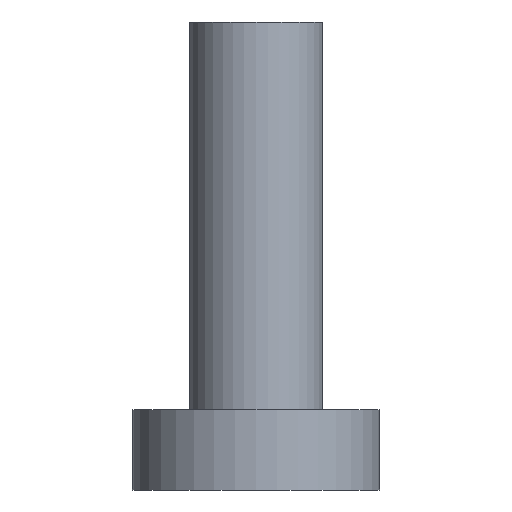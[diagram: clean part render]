
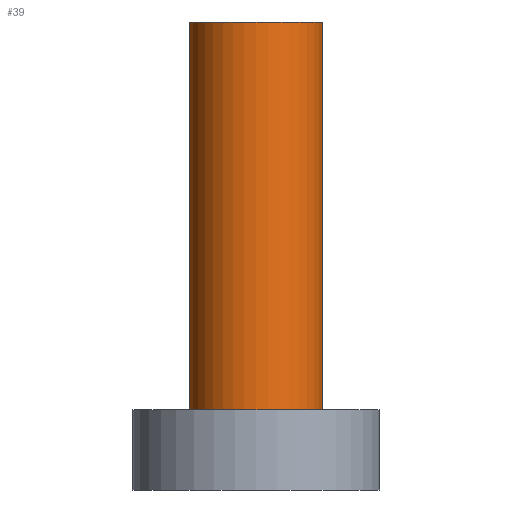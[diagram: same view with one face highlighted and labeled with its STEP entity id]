
A CAD part, left-side view. The second image highlights one B-rep face of the part: STEP entity #39.
In plain terms, the highlighted cylindrical face has radius 1 mm (diameter 2 mm), a full revolution.
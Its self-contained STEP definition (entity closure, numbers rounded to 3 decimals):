
#39 = ADVANCED_FACE('',(#40),#53,.T.);
#40 = FACE_BOUND('',#41,.F.);
#41 = EDGE_LOOP('',(#42,#80,#103,#130));
#42 = ORIENTED_EDGE('',*,*,#43,.T.);
#43 = EDGE_CURVE('',#44,#44,#46,.T.);
#44 = VERTEX_POINT('',#45);
#45 = CARTESIAN_POINT('',(-22.5,43.5,3.2));
#46 = SURFACE_CURVE('',#47,(#52,#64),.PCURVE_S1.);
#47 = CIRCLE('',#48,1.);
#48 = AXIS2_PLACEMENT_3D('',#49,#50,#51);
#49 = CARTESIAN_POINT('',(-23.5,43.5,3.2));
#50 = DIRECTION('',(0.,0.,-1.));
#51 = DIRECTION('',(1.,0.,0.));
#52 = PCURVE('',#53,#58);
#53 = CYLINDRICAL_SURFACE('',#54,1.);
#54 = AXIS2_PLACEMENT_3D('',#55,#56,#57);
#55 = CARTESIAN_POINT('',(-23.5,43.5,3.));
#56 = DIRECTION('',(-0.,-0.,-1.));
#57 = DIRECTION('',(1.,0.,0.));
#58 = DEFINITIONAL_REPRESENTATION('',(#59),#63);
#59 = LINE('',#60,#61);
#60 = CARTESIAN_POINT('',(-6.283,-0.2));
#61 = VECTOR('',#62,1.);
#62 = DIRECTION('',(1.,-0.));
#63 = ( GEOMETRIC_REPRESENTATION_CONTEXT(2) 
PARAMETRIC_REPRESENTATION_CONTEXT() REPRESENTATION_CONTEXT('2D SPACE',''
  ) );
#64 = PCURVE('',#65,#70);
#65 = PLANE('',#66);
#66 = AXIS2_PLACEMENT_3D('',#67,#68,#69);
#67 = CARTESIAN_POINT('',(-23.5,43.5,3.2));
#68 = DIRECTION('',(0.,0.,1.));
#69 = DIRECTION('',(1.,0.,-0.));
#70 = DEFINITIONAL_REPRESENTATION('',(#71),#79);
#71 = ( BOUNDED_CURVE() B_SPLINE_CURVE(2,(#72,#73,#74,#75,#76,#77,#78),
.UNSPECIFIED.,.T.,.F.) B_SPLINE_CURVE_WITH_KNOTS((1,2,2,2,2,1),(
    -2.094,0.,2.094,4.189,6.283,
8.378),.UNSPECIFIED.) CURVE() GEOMETRIC_REPRESENTATION_ITEM() 
RATIONAL_B_SPLINE_CURVE((1.,0.5,1.,0.5,1.,0.5,1.)) REPRESENTATION_ITEM(
  '') );
#72 = CARTESIAN_POINT('',(1.,0.));
#73 = CARTESIAN_POINT('',(1.,-1.732));
#74 = CARTESIAN_POINT('',(-0.5,-0.866));
#75 = CARTESIAN_POINT('',(-2.,0.));
#76 = CARTESIAN_POINT('',(-0.5,0.866));
#77 = CARTESIAN_POINT('',(1.,1.732));
#78 = CARTESIAN_POINT('',(1.,0.));
#79 = ( GEOMETRIC_REPRESENTATION_CONTEXT(2) 
PARAMETRIC_REPRESENTATION_CONTEXT() REPRESENTATION_CONTEXT('2D SPACE',''
  ) );
#80 = ORIENTED_EDGE('',*,*,#81,.T.);
#81 = EDGE_CURVE('',#44,#82,#84,.T.);
#82 = VERTEX_POINT('',#83);
#83 = CARTESIAN_POINT('',(-22.5,43.5,9.));
#84 = SEAM_CURVE('',#85,(#89,#96),.PCURVE_S1.);
#85 = LINE('',#86,#87);
#86 = CARTESIAN_POINT('',(-22.5,43.5,3.));
#87 = VECTOR('',#88,1.);
#88 = DIRECTION('',(0.,0.,1.));
#89 = PCURVE('',#53,#90);
#90 = DEFINITIONAL_REPRESENTATION('',(#91),#95);
#91 = LINE('',#92,#93);
#92 = CARTESIAN_POINT('',(-6.283,0.));
#93 = VECTOR('',#94,1.);
#94 = DIRECTION('',(-0.,-1.));
#95 = ( GEOMETRIC_REPRESENTATION_CONTEXT(2) 
PARAMETRIC_REPRESENTATION_CONTEXT() REPRESENTATION_CONTEXT('2D SPACE',''
  ) );
#96 = PCURVE('',#53,#97);
#97 = DEFINITIONAL_REPRESENTATION('',(#98),#102);
#98 = LINE('',#99,#100);
#99 = CARTESIAN_POINT('',(-0.,0.));
#100 = VECTOR('',#101,1.);
#101 = DIRECTION('',(-0.,-1.));
#102 = ( GEOMETRIC_REPRESENTATION_CONTEXT(2) 
PARAMETRIC_REPRESENTATION_CONTEXT() REPRESENTATION_CONTEXT('2D SPACE',''
  ) );
#103 = ORIENTED_EDGE('',*,*,#104,.T.);
#104 = EDGE_CURVE('',#82,#82,#105,.T.);
#105 = SURFACE_CURVE('',#106,(#111,#118),.PCURVE_S1.);
#106 = CIRCLE('',#107,1.);
#107 = AXIS2_PLACEMENT_3D('',#108,#109,#110);
#108 = CARTESIAN_POINT('',(-23.5,43.5,9.));
#109 = DIRECTION('',(0.,0.,1.));
#110 = DIRECTION('',(1.,0.,0.));
#111 = PCURVE('',#53,#112);
#112 = DEFINITIONAL_REPRESENTATION('',(#113),#117);
#113 = LINE('',#114,#115);
#114 = CARTESIAN_POINT('',(-0.,-6.));
#115 = VECTOR('',#116,1.);
#116 = DIRECTION('',(-1.,0.));
#117 = ( GEOMETRIC_REPRESENTATION_CONTEXT(2) 
PARAMETRIC_REPRESENTATION_CONTEXT() REPRESENTATION_CONTEXT('2D SPACE',''
  ) );
#118 = PCURVE('',#119,#124);
#119 = PLANE('',#120);
#120 = AXIS2_PLACEMENT_3D('',#121,#122,#123);
#121 = CARTESIAN_POINT('',(-23.5,43.5,9.));
#122 = DIRECTION('',(0.,0.,1.));
#123 = DIRECTION('',(1.,0.,-0.));
#124 = DEFINITIONAL_REPRESENTATION('',(#125),#129);
#125 = CIRCLE('',#126,1.);
#126 = AXIS2_PLACEMENT_2D('',#127,#128);
#127 = CARTESIAN_POINT('',(0.,0.));
#128 = DIRECTION('',(1.,0.));
#129 = ( GEOMETRIC_REPRESENTATION_CONTEXT(2) 
PARAMETRIC_REPRESENTATION_CONTEXT() REPRESENTATION_CONTEXT('2D SPACE',''
  ) );
#130 = ORIENTED_EDGE('',*,*,#81,.F.);
